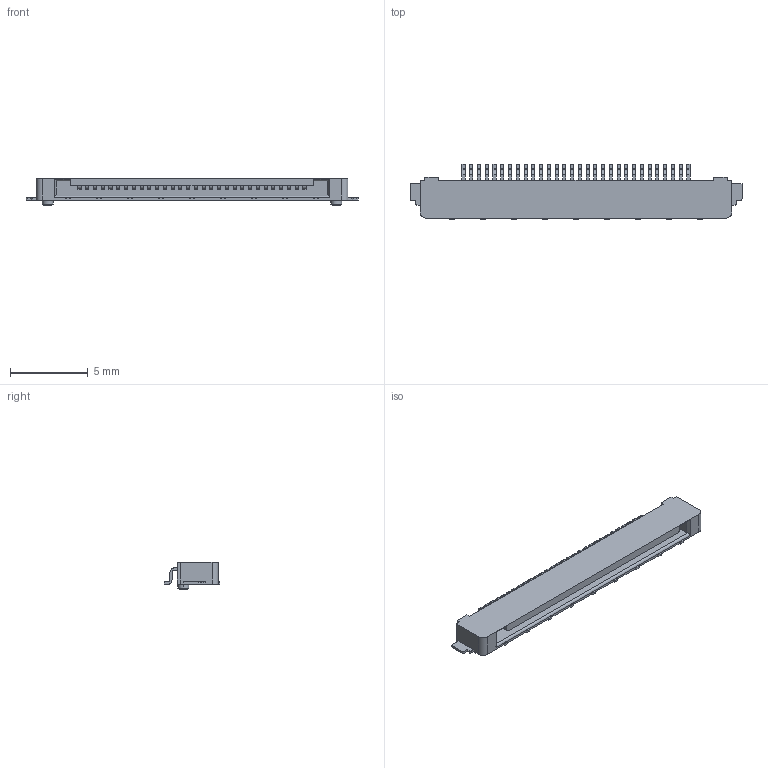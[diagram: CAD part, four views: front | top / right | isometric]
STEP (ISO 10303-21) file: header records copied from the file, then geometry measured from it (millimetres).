
FILE_DESCRIPTION(('Creo Elements/Direct Modeling STEP Export'),'2;1');
FILE_NAME('SSL01-30L3_ST.stp','2017-08-04T14:48:21',(''),(''),'Creo Elements/Direct Modeling STEP processor for AP214 (Solid Model)','Creo Elements/Direct Modeling 19.0F 14-Feb-2017 (C) Parametric Technology GmbH','');
FILE_SCHEMA(('AUTOMOTIVE_DESIGN { 1 0 10303 214 1 1 1 1 }'));
Length unit declared in the file: millimetre
Products named in the file (2): SSL01-30L3
Assembly tree (1 placements, depth 2):
  SSL01-30L3
    SSL01-30L3
Bounding box: 21.4 x 3.58 x 1.75 mm (x, y, z)
Volume: 53.4 mm3; surface area: 278.2 mm2
Topology: 1 solids, 1 shells, 744 faces, 2216 edges, 1477 vertices
Faces by surface type: plane 467, cylinder 273, cone 4
Entity records: 25089 total; most frequent: CARTESIAN_POINT 4438, ORIENTED_EDGE 4432, DIRECTION 4233, EDGE_CURVE 2216, VECTOR 1657, LINE 1657, VERTEX_POINT 1477, AXIS2_PLACEMENT_3D 1288
